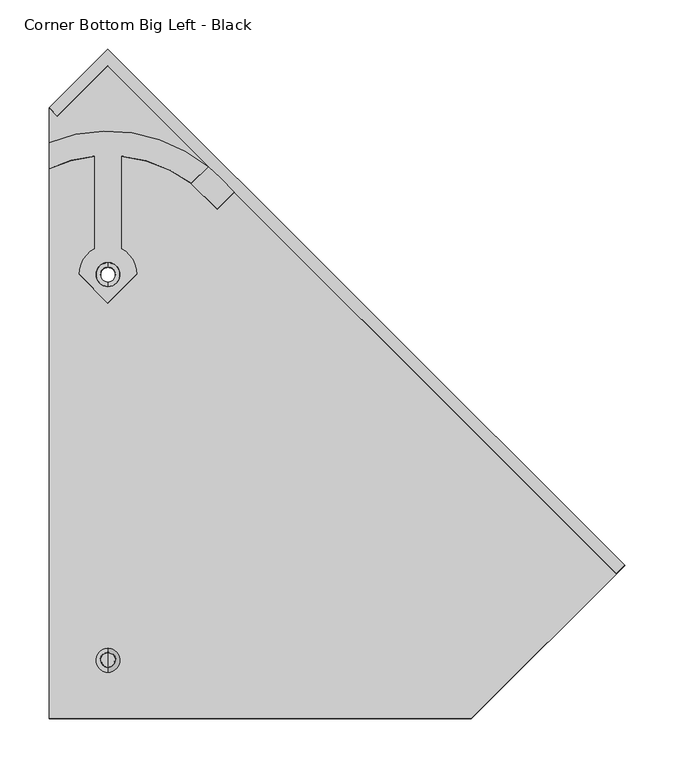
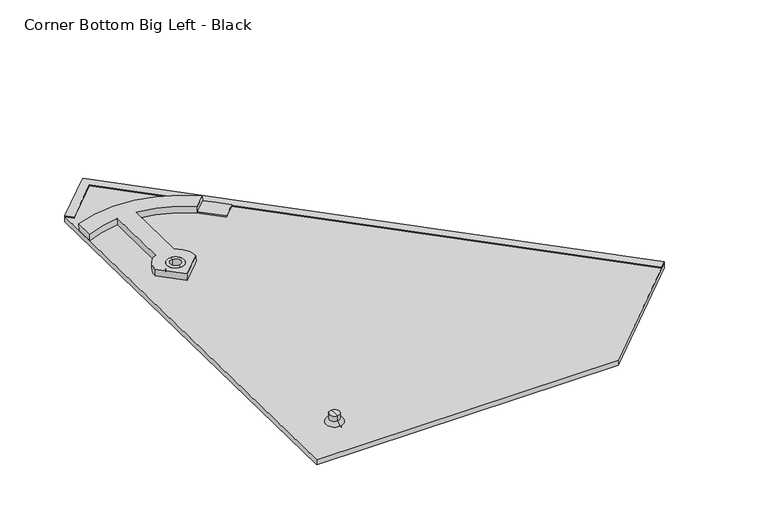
"""IFC4 building model written with IfcOpenShell, lengths in millimetres: proxy geometry, Roofing_Panels_SunStyle_Tile_Corner-Bottom-Big-Left : Corner Bottom Big Left - Black."""

from ifc_helpers import new_model, si_unit, point, frame, frame_2d, origin, place, context, project, spatial, polyline, circle_curve, ellipse_curve, trimmed, segment, composite_curve, outline, extrude, source, transform, mapped, element, save
from ifc_brep_helpers import plane_surface, cylinder_surface, revolved_surface, advanced_brep


def corner_bottom_big_left_black_6b9b3caf(model_context):
    return source(origin(), model_context, "Body", "SolidModel", [
        advanced_brep(
        [(-0.0751428, -14.9565614, 18.1989674), (-0.0751428, -1.6234809, 17.9756715), (-0.0751428, -1.99179, -4.0161979), (-0.0751428, -15.3248705, -3.792902), (-0.0751428, -20.4557903, 18.2910658), (-0.0751428, 3.875748, 17.8835731), (-0.0751428, -15.506794, 23.2048726), (-0.0751428, -0.905931, 22.9603445), (-0.0751428, -8.072334, 31.0854967), (-0.0751428, -0.7719026, 30.9632326), (-0.0751428, -15.3727655, 31.2077608), (-0.0751428, -8.6583302, -3.9045499)],
        [
            (0, 1, circle_curve(frame((-0.0751428, -8.2900212, 18.0873194), z_axis=(0.0, -0.016745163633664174, -0.9998597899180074), x_axis=(0.0, 0.9998597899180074, -0.016745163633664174)), 6.6674751)),
            (1, 2),
            (2, 3, circle_curve(frame((-0.0751428, -8.6583302, -3.9045499), z_axis=(0.0, 0.016745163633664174, 0.9998597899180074), x_axis=(0.0, 0.9998597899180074, -0.016745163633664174)), 6.6674751)),
            (3, 0),
            (1, 0, circle_curve(frame((-0.0751428, -8.2900212, 18.0873194), z_axis=(0.0, -0.016745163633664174, -0.9998597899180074), x_axis=(0.0, 0.9998597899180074, -0.016745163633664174)), 6.6674751)),
            (3, 2, circle_curve(frame((-0.0751428, -8.6583302, -3.9045499), z_axis=(0.0, 0.016745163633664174, 0.9998597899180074), x_axis=(0.0, 0.9998597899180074, -0.016745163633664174)), 6.6674751)),
            (4, 5, circle_curve(frame((-0.0751428, -8.2900212, 18.0873194), z_axis=(0.0, -0.016745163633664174, -0.9998597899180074), x_axis=(0.0, 0.9998597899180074, -0.016745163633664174)), 12.1674751)),
            (5, 1),
            (0, 4),
            (5, 4, circle_curve(frame((-0.0751428, -8.2900212, 18.0873194), z_axis=(0.0, -0.016745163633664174, -0.9998597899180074), x_axis=(0.0, 0.9998597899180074, -0.016745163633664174)), 12.1674751)),
            (6, 7, circle_curve(frame((-0.0751428, -8.2063625, 23.0826085), z_axis=(0.0, -0.016745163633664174, -0.9998597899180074), x_axis=(0.0, 0.9998597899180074, -0.016745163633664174)), 7.3014552)),
            (7, 5, circle_curve(frame((-0.0751428, -1.210129, 17.8835731), z_axis=(-1.0, 0.0, 0.0), x_axis=(0.0, 1.0, 0.0)), 5.0858769)),
            (4, 6, circle_curve(frame((-0.0751428, -15.3727655, 18.120762), z_axis=(-1.0, 0.0, 0.0), x_axis=(0.0, -0.9994391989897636, 0.03348563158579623)), 5.0858769)),
            (7, 6, circle_curve(frame((-0.0751428, -8.2063625, 23.0826085), z_axis=(0.0, -0.016745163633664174, -0.9998597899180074), x_axis=(0.0, 0.9998597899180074, -0.016745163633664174)), 7.3014552)),
            (8, 9),
            (9, 10, circle_curve(frame((-0.0751428, -8.072334, 31.0854967), z_axis=(0.0, 0.016745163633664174, 0.9998597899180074), x_axis=(0.0, 0.9998597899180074, -0.016745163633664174)), 7.3014552)),
            (10, 8),
            (10, 9, circle_curve(frame((-0.0751428, -8.072334, 31.0854967), z_axis=(0.0, 0.016745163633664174, 0.9998597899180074), x_axis=(0.0, 0.9998597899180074, -0.016745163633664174)), 7.3014552)),
            (2, 11),
            (11, 3),
            (9, 7),
            (6, 10),
        ],
        [
            cylinder_surface(frame((-0.0751428, -7.937976, 39.1080636), z_axis=(0.0, 0.016745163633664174, 0.9998597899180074), x_axis=(0.0, 0.9998597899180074, -0.016745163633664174)), 6.6674751),
            plane_surface(frame((-0.0751428, -8.2900212, 18.0873194), z_axis=(0.0, -0.016745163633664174, -0.9998597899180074), x_axis=(0.0, 0.9998597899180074, -0.016745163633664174))),
            revolved_surface(trimmed(ellipse_curve(frame((-0.0751428, -1.210129, 17.8835731), z_axis=(1.0, 0.0, 0.0), x_axis=(0.0, 1.0, 0.0)), 5.0858769, 5.0858769), [point((-0.0751428, 3.875748, 17.8835731))], [point((-0.0751428, -0.905931, 22.9603445))], True, "CARTESIAN"), (-0.0751428, -7.937976, 39.1080636), (0.0, 0.016745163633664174, 0.9998597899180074)),
            plane_surface(frame((-0.0751428, -8.072334, 31.0854967), z_axis=(0.0, 0.016745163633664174, 0.9998597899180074), x_axis=(0.0, 0.9998597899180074, -0.016745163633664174))),
            plane_surface(frame((-0.0751428, -8.6583302, -3.9045499), z_axis=(0.0, -0.016745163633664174, -0.9998597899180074), x_axis=(0.0, 0.9998597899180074, -0.016745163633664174))),
            cylinder_surface(frame((-0.0751428, -7.937976, 39.1080636), z_axis=(0.0, 0.016745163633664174, 0.9998597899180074), x_axis=(0.0, 0.9998597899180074, -0.016745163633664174)), 7.3014552),
        ],
        [
            (0, [[1, 2, 3, 4]]),
            (0, [[5, -4, 6, -2]]),
            (1, [[7, 8, -1, 9]]),
            (1, [[10, -9, -5, -8]]),
            (2, [[11, 12, -7, 13]]),
            (2, [[14, -13, -10, -12]]),
            (3, [[15, 16, 17]]),
            (3, [[-17, 18, -15]]),
            (4, [[-3, 19, 20]]),
            (4, [[-6, -20, -19]]),
            (5, [[-16, 21, -11, 22]]),
            (5, [[-18, -22, -14, -21]]),
        ],
    ),
        advanced_brep(
        [(0.0, 377.3302693, 20.2441668), (0.0, 392.6630703, 19.9873805), (0.0, 397.1624389, 19.9120273), (0.0, 372.8309007, 20.31952), (0.0, 377.0623471, 4.2464102), (0.0, 392.3951472, 3.9896239), (0.0, 372.5629781, 4.3217634), (0.0, 396.8945163, 3.9142707)],
        [
            (0, 1, circle_curve(frame((0.0, 384.9966698, 20.1157737), z_axis=(0.0, -0.016745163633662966, -0.9998597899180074), x_axis=(0.0, 0.9998597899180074, -0.016745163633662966)), 7.6674755)),
            (1, 2),
            (2, 3, circle_curve(frame((0.0, 384.9966698, 20.1157737), z_axis=(0.0, 0.016745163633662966, 0.9998597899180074), x_axis=(0.0, 0.9998597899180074, -0.016745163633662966)), 12.1674751)),
            (3, 0),
            (1, 0, circle_curve(frame((0.0, 384.9966698, 20.1157737), z_axis=(0.0, -0.016745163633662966, -0.9998597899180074), x_axis=(0.0, 0.9998597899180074, -0.016745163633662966)), 7.6674755)),
            (3, 2, circle_curve(frame((0.0, 384.9966698, 20.1157737), z_axis=(0.0, 0.016745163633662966, 0.9998597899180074), x_axis=(0.0, 0.9998597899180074, -0.016745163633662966)), 12.1674751)),
            (4, 5, circle_curve(frame((0.0, 384.7287472, 4.118017), z_axis=(0.0, -0.016745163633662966, -0.9998597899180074), x_axis=(0.0, 0.9998597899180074, -0.016745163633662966)), 7.6674751)),
            (5, 1),
            (0, 4),
            (5, 4, circle_curve(frame((0.0, 384.7287472, 4.118017), z_axis=(0.0, -0.016745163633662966, -0.9998597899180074), x_axis=(0.0, 0.9998597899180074, -0.016745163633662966)), 7.6674751)),
            (6, 7, circle_curve(frame((0.0, 384.7287472, 4.118017), z_axis=(0.0, -0.016745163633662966, -0.9998597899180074), x_axis=(0.0, 0.9998597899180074, -0.016745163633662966)), 12.1674751)),
            (7, 5),
            (4, 6),
            (7, 6, circle_curve(frame((0.0, 384.7287472, 4.118017), z_axis=(0.0, -0.016745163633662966, -0.9998597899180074), x_axis=(0.0, 0.9998597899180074, -0.016745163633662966)), 12.1674751)),
            (2, 7),
            (6, 3),
        ],
        [
            plane_surface(frame((0.0, 384.9966698, 20.1157737), z_axis=(0.0, 0.016745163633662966, 0.9998597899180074), x_axis=(0.0, 0.9998597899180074, -0.016745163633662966))),
            revolved_surface(polyline([(0.0, 392.66306984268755, 19.987380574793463), (0.0, 392.3951472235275, 3.989623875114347)]), (0.0, 384.9966698, 20.1157737), (0.0, 0.016745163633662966, 0.9998597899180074)),
            plane_surface(frame((0.0, 384.7287472, 4.118017), z_axis=(0.0, -0.016745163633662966, -0.9998597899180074), x_axis=(0.0, 0.9998597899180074, -0.016745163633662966))),
            cylinder_surface(frame((0.0, 384.9966698, 20.1157737), z_axis=(0.0, 0.016745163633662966, 0.9998597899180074), x_axis=(0.0, 0.9998597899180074, -0.016745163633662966)), 12.1674751),
        ],
        [
            (0, [[1, 2, 3, 4]]),
            (0, [[5, -4, 6, -2]]),
            (1, [[7, 8, -1, 9]]),
            (1, [[10, -9, -5, -8]]),
            (2, [[11, 12, -7, 13]]),
            (2, [[14, -13, -10, -12]]),
            (3, [[-3, 15, -11, 16]]),
            (3, [[-6, -16, -14, -15]]),
        ],
    ),
        extrude(outline(polyline([(0.0, -11.9999999), (0.0, 0.0), (732.8605981, 1e-07), (732.8708335, 72.9957231), (744.8708335, 72.9940405), (744.8589156, -12.0), (0.0, -11.9999999)])), frame((518.2473516, 79.9143813, 14.9652572), z_axis=(0.0, 0.016745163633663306, 0.9998597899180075), x_axis=(-0.7071563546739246, 0.706958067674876, -0.011839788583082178)), (0.0, 0.0, 1.0), 1.5),
        extrude(outline(polyline([(995.0941907, 0.0), (995.1986348, -744.8589083), (774.0645461, -744.8589083), (469.6624347, -440.4994772), (910.1001495, 0.0), (995.0941907, 0.0)]), holes=[composite_curve([segment(trimmed(circle_curve(frame_2d((832.2939736, -162.8384188)), 12.0), [point((823.8080973, -154.3537323))], [point((840.7798499, -171.3231052))], True, "CARTESIAN"), True, "CONTINUOUS"), segment(trimmed(circle_curve(frame_2d((832.2939736, -162.8384188)), 12.0), [point((840.7798499, -171.3231052))], [point((823.8080973, -154.3537323))], True, "CARTESIAN"), True, "CONTINUOUS")], self_intersect=False), composite_curve([segment(trimmed(circle_curve(frame_2d((554.3674462, -440.7782037)), 8.0), [point((548.7101953, -435.1217461))], [point((560.024697, -446.4346614))], True, "CARTESIAN"), True, "CONTINUOUS"), segment(trimmed(circle_curve(frame_2d((554.3674462, -440.7782037)), 8.0), [point((560.024697, -446.4346614))], [point((548.7101953, -435.1217461))], True, "CARTESIAN"), True, "CONTINUOUS")], self_intersect=False)]), frame((-703.686858, -88.6323676, 10.2869442), z_axis=(0.0, 0.01674516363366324, 0.9998597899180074), x_axis=(0.7071563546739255, 0.7069580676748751, -0.011839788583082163)), (0.0, 0.0, 1.0), 7.5),
        advanced_brep(
        [(-60.1037539, 519.6893101, 17.6015237), (-60.1037539, 492.9630774, 18.0491216), (-13.3, 505.8109871, 17.8339511), (-13.3, 411.4605631, 19.4140859), (-29.3894281, 385.2564434, 19.8529397), (0.0, 355.8711361, 20.3450705), (29.3894281, 385.2564434, 19.8529397), (13.3, 411.4605631, 19.4140859), (13.3, 505.8109871, 17.8339511), (84.944396, 477.9190769, 18.3010712), (102.0275718, 494.9998575, 18.0150106), (-12.0, 385.2564434, 19.8529397), (12.0, 385.2564434, 19.8529397), (-60.1037539, 519.5218584, 7.6029258), (102.0275718, 494.8324058, 8.0164127), (114.2509691, 483.797483, 8.2012202), (128.9467134, 469.1058594, 8.4472683), (111.2690438, 451.4306685, 8.7432838), (84.9431983, 477.7528228, 8.3024532), (13.3, 505.6435355, 7.8353532), (13.3, 411.2931115, 9.415488), (29.3894281, 385.0889918, 9.8543418), (0.0, 355.7036844, 10.3464726), (-29.3894281, 385.0889918, 9.8543418), (-13.3, 411.2931115, 9.415488), (-13.3, 505.6435355, 7.8353532), (-60.1037539, 492.7956258, 8.0505237), (-12.0, 385.0889918, 9.8543418), (12.0, 385.0889918, 9.8543418), (102.0275718, 494.8742688, 10.5160622), (128.9467134, 469.1477223, 10.9469178), (114.2509691, 483.8393459, 10.7008697), (84.944396, 477.7934882, 10.8021227), (111.2690438, 451.4725314, 11.2429333)],
        [
            (0, 1),
            (1, 2, circle_curve(frame((0.0, 365.7229584, 20.180077), z_axis=(0.0, -0.01674516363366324, -0.9998597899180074), x_axis=(1.0, 0.0, 0.0)), 140.737522)),
            (2, 3),
            (3, 4, circle_curve(frame((0.0, 385.2564434, 19.8529397), z_axis=(0.0, 0.01674516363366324, 0.9998597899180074), x_axis=(1.0, 0.0, 0.0)), 29.3894281)),
            (4, 5),
            (5, 6),
            (6, 7, circle_curve(frame((0.0, 385.2564434, 19.8529397), z_axis=(0.0, 0.01674516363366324, 0.9998597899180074), x_axis=(1.0, 0.0, 0.0)), 29.3894281)),
            (7, 8),
            (8, 9, circle_curve(frame((0.0, 365.7229584, 20.180077), z_axis=(0.0, -0.01674516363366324, -0.9998597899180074), x_axis=(1.0, 0.0, 0.0)), 140.737522)),
            (9, 10),
            (10, 0, circle_curve(frame((0.0, 369.7299846, 20.1129693), z_axis=(0.0, 0.01674516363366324, 0.9998597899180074), x_axis=(1.0, 0.0, 0.0)), 161.57527)),
            (11, 12, circle_curve(frame((0.0, 385.2564434, 19.8529397), z_axis=(0.0, -0.01674516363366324, -0.9998597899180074), x_axis=(1.0, 0.0, 0.0)), 12.0)),
            (12, 11, circle_curve(frame((0.0, 385.2564434, 19.8529397), z_axis=(0.0, -0.01674516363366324, -0.9998597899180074), x_axis=(1.0, 0.0, 0.0)), 12.0)),
            (13, 14, circle_curve(frame((0.0, 369.562533, 10.1143714), z_axis=(0.0, -0.01674516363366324, -0.9998597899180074), x_axis=(1.0, 0.0, 0.0)), 161.57527)),
            (14, 15, circle_curve(frame((0.0, 369.562533, 10.1143714), z_axis=(0.0, -0.01674516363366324, -0.9998597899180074), x_axis=(1.0, 0.0, 0.0)), 161.57527)),
            (15, 16),
            (16, 17),
            (17, 18),
            (18, 19, circle_curve(frame((0.0, 365.5555068, 10.1814791), z_axis=(0.0, 0.01674516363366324, 0.9998597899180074), x_axis=(1.0, 0.0, 0.0)), 140.737522)),
            (19, 20),
            (20, 21, circle_curve(frame((0.0, 385.0889918, 9.8543418), z_axis=(0.0, -0.01674516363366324, -0.9998597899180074), x_axis=(1.0, 0.0, 0.0)), 29.3894281)),
            (21, 22),
            (22, 23),
            (23, 24, circle_curve(frame((0.0, 385.0889918, 9.8543418), z_axis=(0.0, -0.01674516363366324, -0.9998597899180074), x_axis=(1.0, 0.0, 0.0)), 29.3894281)),
            (24, 25),
            (25, 26, circle_curve(frame((0.0, 365.5555068, 10.1814791), z_axis=(0.0, 0.01674516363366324, 0.9998597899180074), x_axis=(1.0, 0.0, 0.0)), 140.737522)),
            (26, 13),
            (27, 28, circle_curve(frame((0.0, 385.0889918, 9.8543418), z_axis=(0.0, 0.01674516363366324, 0.9998597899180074), x_axis=(1.0, 0.0, 0.0)), 12.0)),
            (28, 27, circle_curve(frame((0.0, 385.0889918, 9.8543418), z_axis=(0.0, 0.01674516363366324, 0.9998597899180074), x_axis=(1.0, 0.0, 0.0)), 12.0)),
            (2, 25),
            (24, 3),
            (23, 4),
            (22, 5),
            (21, 6),
            (20, 7),
            (19, 8),
            (10, 29),
            (29, 14),
            (13, 0),
            (11, 27),
            (28, 12),
            (30, 31),
            (31, 29, circle_curve(frame((0.0, 369.6043959, 12.6140208), z_axis=(0.0, 0.01674516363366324, 0.9998597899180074), x_axis=(1.0, 0.0, 0.0)), 161.57527)),
            (29, 32),
            (32, 33),
            (33, 30),
            (30, 16),
            (15, 31),
            (33, 17),
            (32, 18),
            (9, 32),
            (1, 26),
        ],
        [
            plane_surface(frame((-60.1037539, 555.0633158, 17.0090971), z_axis=(0.0, 0.01674516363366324, 0.9998597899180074), x_axis=(0.0, -0.9998597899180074, 0.01674516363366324))),
            plane_surface(frame((-60.1037539, 554.8958642, 7.0104992), z_axis=(0.0, -0.01674516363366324, -0.9998597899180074), x_axis=(0.0, 0.9998597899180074, -0.01674516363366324))),
            plane_surface(frame((-13.3, 505.8109871, 17.8339511), z_axis=(-1.0000000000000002, 0.0, 0.0), x_axis=(0.0, -0.01674516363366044, -0.9998597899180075))),
            cylinder_surface(frame((0.0, 385.0889918, 9.8543418), z_axis=(0.0, 0.01674516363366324, 0.9998597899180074), x_axis=(1.0, 0.0, 0.0)), 29.3894281),
            plane_surface(frame((-29.3894281, 385.2564434, 19.8529397), z_axis=(-0.7071067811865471, -0.7070076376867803, 0.011840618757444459), x_axis=(0.0, -0.016745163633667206, -0.9998597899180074))),
            plane_surface(frame((0.0, 355.8711361, 20.3450705), z_axis=(0.7071067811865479, -0.7070076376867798, 0.011840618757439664), x_axis=(0.0, -0.01674516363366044, -0.9998597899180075))),
            plane_surface(frame((13.3, 411.4605631, 19.4140859), z_axis=(1.0000000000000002, 0.0, 0.0), x_axis=(0.0, -0.016745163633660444, -0.9998597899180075))),
            cylinder_surface(frame((0.0, 369.562533, 10.1143714), z_axis=(0.0, 0.01674516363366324, 0.9998597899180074), x_axis=(1.0, 0.0, 0.0)), 161.57527),
            revolved_surface(polyline([(12.0, 385.0889918, 9.8543418), (12.0, 385.25644343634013, 19.852939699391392)]), (0.0, 385.0889918, 9.8543418), (0.0, -0.01674516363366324, -0.9998597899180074)),
            plane_surface(frame((128.9467134, 469.1477223, 10.9469178), z_axis=(0.0, 0.01674516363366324, 0.9998597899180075), x_axis=(-0.7071563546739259, 0.7069580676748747, -0.011839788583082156))),
            plane_surface(frame((128.9467134, 469.1477223, 10.9469178), z_axis=(0.7070572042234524, 0.7070572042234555, -0.011841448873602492), x_axis=(0.0, -0.016745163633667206, -0.9998597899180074))),
            plane_surface(frame((111.2690438, 451.4725314, 11.2429333), z_axis=(0.7071067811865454, -0.7070076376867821, 0.011840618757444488), x_axis=(0.0, -0.016745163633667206, -0.9998597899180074))),
            plane_surface(frame((84.9431983, 477.7946858, 10.8021027), z_axis=(-0.7071067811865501, -0.7070076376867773, 0.011840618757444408), x_axis=(0.0, -0.016745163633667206, -0.9998597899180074))),
            plane_surface(frame((84.944396, 477.9190769, 18.3010712), z_axis=(0.7071067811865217, -0.7070076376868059, 0.011840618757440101), x_axis=(0.0, -0.01674516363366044, -0.9998597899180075))),
            revolved_surface(polyline([(140.737522, 365.5555067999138, 10.18147909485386), (140.737522, 365.722958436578, 20.18007701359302)]), (0.0, 365.5555068, 10.1814791), (0.0, -0.01674516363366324, -0.9998597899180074)),
            revolved_surface(polyline([(140.737522, 365.55550679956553, 10.181479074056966), (140.737522, 365.72295843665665, 20.180077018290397)]), (0.0, 365.5555068, 10.1814791), (0.0, -0.01674516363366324, -0.9998597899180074)),
            plane_surface(frame((-60.1037539, 519.6893101, 17.6015237), z_axis=(-1.0000000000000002, 0.0, 0.0), x_axis=(0.0, -0.01674516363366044, -0.9998597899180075))),
        ],
        [
            (0, [[1, 2, 3, 4, 5, 6, 7, 8, 9, 10, 11], [12, 13]]),
            (1, [[14, 15, 16, 17, 18, 19, 20, 21, 22, 23, 24, 25, 26, 27], [28, 29]]),
            (2, [[-3, 30, -25, 31]]),
            (3, [[-4, -31, -24, 32]]),
            (4, [[-5, -32, -23, 33]]),
            (5, [[-6, -33, -22, 34]]),
            (3, [[-7, -34, -21, 35]]),
            (6, [[-8, -35, -20, 36]]),
            (7, [[-11, 37, 38, -14, 39]]),
            (8, [[-12, 40, -29, 41]]),
            (8, [[-13, -41, -28, -40]]),
            (9, [[42, 43, 44, 45, 46]]),
            (10, [[-42, 47, -16, 48]]),
            (11, [[-46, 49, -17, -47]]),
            (7, [[-43, -48, -15, -38]]),
            (12, [[-45, 50, -18, -49]]),
            (13, [[-10, 51, -44, -37]]),
            (14, [[-2, 52, -26, -30]]),
            (15, [[-9, -36, -19, -50, -51]]),
            (16, [[-1, -39, -27, -52]]),
        ],
    ),
    ])


if __name__ == "__main__":
    model = new_model("IFC4")
    model_context = context("Model", 3, world=origin())
    ifc_project = project(units=[si_unit("LENGTHUNIT", "METRE", prefix="MILLI")], contexts=[model_context])
    site = spatial("IfcSite", under=ifc_project)
    building = spatial("IfcBuilding", under=site)
    placement = place(None, origin())
    corner_bottom_big_left_black_shape = corner_bottom_big_left_black_6b9b3caf(model_context)
    element("IfcBuildingElementProxy", 1, Name="Roofing_Panels_SunStyle_Tile_Corner-Bottom-Big-Left : Corner Bottom Big Left - Black", ObjectType="Roofing_Panels_SunStyle_Tile_Corner-Bottom-Big-Left : Corner Bottom Big Left - Black", at=placement, inside=building, context=model_context, shape_type="MappedRepresentation", body=[
        mapped(corner_bottom_big_left_black_shape, transform((0.0, 0.0, 0.0), x_axis=(1.0, 0.0, 0.0), y_axis=(0.0, 1.0, 0.0), z_axis=(0.0, 0.0, 1.0))),
    ])
    save(model, "model.ifc")
